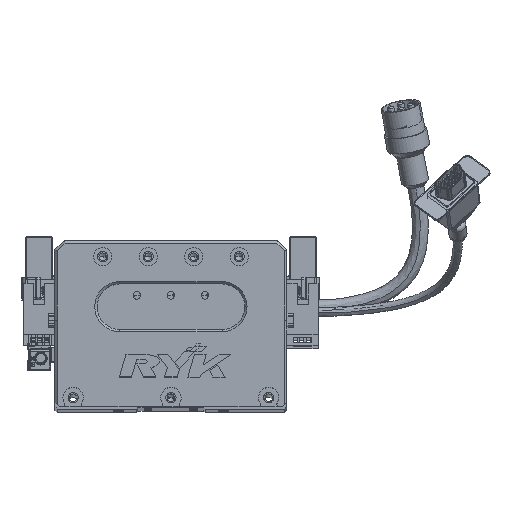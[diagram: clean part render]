
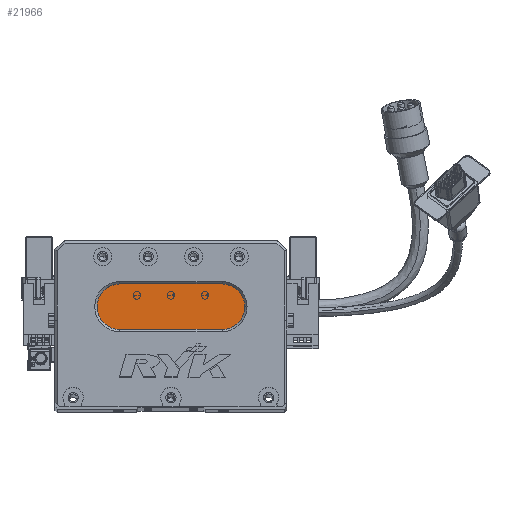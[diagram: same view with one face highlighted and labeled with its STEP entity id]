
A CAD part, top view. The second image highlights one B-rep face of the part: STEP entity #21966.
In plain terms, the highlighted planar face has unit normal (0, 0, 1) as drawn and (0, 0, -1) by its records, which use the part's own axes.
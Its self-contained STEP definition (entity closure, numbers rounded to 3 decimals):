
#1935 = AXIS2_PLACEMENT_3D ( 'NONE', #15048, #20789, #5147 ) ;
#5147 = DIRECTION ( 'NONE',  ( -1., 0., 0. ) ) ;
#5214 = CARTESIAN_POINT ( 'NONE',  ( 73.5, 54., 13. ) ) ;
#9234 = AXIS2_PLACEMENT_3D ( 'NONE', #11346, #63960, #32653 ) ;
#11165 = VERTEX_POINT ( 'NONE', #57464 ) ;
#11346 = CARTESIAN_POINT ( 'NONE',  ( 28.5, 44., 13. ) ) ;
#12243 = VERTEX_POINT ( 'NONE', #20643 ) ;
#15048 = CARTESIAN_POINT ( 'NONE',  ( 28.5, 44., 13. ) ) ;
#16136 = VERTEX_POINT ( 'NONE', #26483 ) ;
#16624 = ORIENTED_EDGE ( 'NONE', *, *, #48780, .T. ) ;
#17917 = EDGE_CURVE ( 'NONE', #44740, #11165, #51643, .T. ) ;
#20383 = DIRECTION ( 'NONE',  ( 1., 0., 0. ) ) ;
#20643 = CARTESIAN_POINT ( 'NONE',  ( 73.5, 34., 13. ) ) ;
#20789 = DIRECTION ( 'NONE',  ( 0., 0., -1. ) ) ;
#21261 = PLANE ( 'NONE',  #26749 ) ;
#21966 = ADVANCED_FACE ( 'NONE', ( #60933 ), #21261, .T. ) ;
#23515 = CARTESIAN_POINT ( 'NONE',  ( 28.5, 34., 13. ) ) ;
#26483 = CARTESIAN_POINT ( 'NONE',  ( 28.5, 54., 13. ) ) ;
#26749 = AXIS2_PLACEMENT_3D ( 'NONE', #57142, #41600, #36128 ) ;
#27222 = CIRCLE ( 'NONE', #9234, 10. ) ;
#30333 = LINE ( 'NONE', #58925, #38563 ) ;
#32653 = DIRECTION ( 'NONE',  ( -1., 0., 0. ) ) ;
#33117 = DIRECTION ( 'NONE',  ( -1., 0., 0. ) ) ;
#36128 = DIRECTION ( 'NONE',  ( -1., 0., 0. ) ) ;
#38563 = VECTOR ( 'NONE', #33117, 1000. ) ;
#41600 = DIRECTION ( 'NONE',  ( 0., 0., -1. ) ) ;
#41824 = ORIENTED_EDGE ( 'NONE', *, *, #65220, .T. ) ;
#41903 = AXIS2_PLACEMENT_3D ( 'NONE', #60429, #44856, #60194 ) ;
#44255 = ORIENTED_EDGE ( 'NONE', *, *, #51285, .T. ) ;
#44740 = VERTEX_POINT ( 'NONE', #23515 ) ;
#44856 = DIRECTION ( 'NONE',  ( 0., 0., -1. ) ) ;
#48780 = EDGE_CURVE ( 'NONE', #12243, #44740, #30333, .T. ) ;
#51069 = EDGE_CURVE ( 'NONE', #59680, #12243, #61292, .T. ) ;
#51285 = EDGE_CURVE ( 'NONE', #16136, #59680, #66145, .T. ) ;
#51643 = CIRCLE ( 'NONE', #1935, 10. ) ;
#57142 = CARTESIAN_POINT ( 'NONE',  ( 73.5, 44., 13. ) ) ;
#57464 = CARTESIAN_POINT ( 'NONE',  ( 18.5, 44., 13. ) ) ;
#58782 = VECTOR ( 'NONE', #20383, 1000. ) ;
#58925 = CARTESIAN_POINT ( 'NONE',  ( 73.5, 34., 13. ) ) ;
#59680 = VERTEX_POINT ( 'NONE', #59906 ) ;
#59906 = CARTESIAN_POINT ( 'NONE',  ( 73.5, 54., 13. ) ) ;
#60194 = DIRECTION ( 'NONE',  ( -1., 0., 0. ) ) ;
#60429 = CARTESIAN_POINT ( 'NONE',  ( 73.5, 44., 13. ) ) ;
#60933 = FACE_OUTER_BOUND ( 'NONE', #63447, .T. ) ;
#61292 = CIRCLE ( 'NONE', #41903, 10. ) ;
#63447 = EDGE_LOOP ( 'NONE', ( #64743, #16624, #64506, #41824, #44255 ) ) ;
#63960 = DIRECTION ( 'NONE',  ( 0., 0., -1. ) ) ;
#64506 = ORIENTED_EDGE ( 'NONE', *, *, #17917, .T. ) ;
#64743 = ORIENTED_EDGE ( 'NONE', *, *, #51069, .T. ) ;
#65220 = EDGE_CURVE ( 'NONE', #11165, #16136, #27222, .T. ) ;
#66145 = LINE ( 'NONE', #5214, #58782 ) ;
